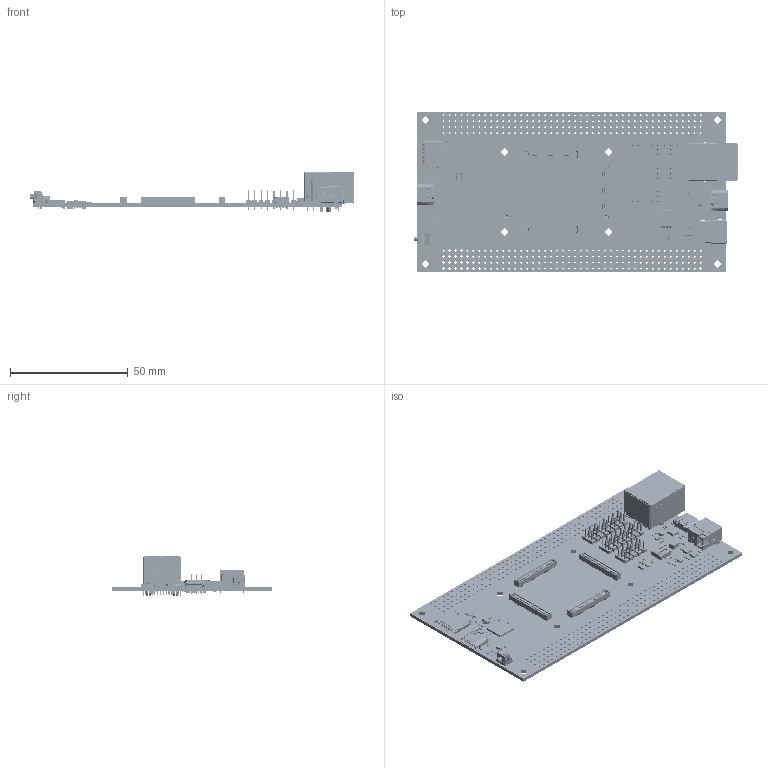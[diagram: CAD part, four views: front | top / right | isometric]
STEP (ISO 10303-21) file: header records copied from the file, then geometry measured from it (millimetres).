
FILE_DESCRIPTION(('KiCad electronic assembly'),'2;1');
FILE_NAME('xlc3233-01_carrier.step','2025-10-01T15:55:16',('Pcbnew'),( 'Kicad'),'Open CASCADE STEP processor 7.6','KiCad to STEP converter' ,'Unknown');
FILE_SCHEMA(('AUTOMOTIVE_DESIGN { 1 0 10303 214 1 1 1 1 }'));
Length unit declared in the file: millimetre
Products named in the file (471): xlc3233-01_carrier 1; SC-88A; R_0402_1005Metric; Solid1; Solid2; Solid3; TENSILITY_54-00127; 54-00127_54-00127; FB_0402_1005Metric; NX3020_SC-88_SOT363; part; C_0402_1005Metric; SAMTEC_TMM-103-03-L-S; TMM-103-03-L-S_body; TMM-103-03-L-S_pins1; TMM-103-03-L-S_pins2; TPSM828303ARDSR; NEXPERIA_PCMF1USB3SZ; HIROSE_DM3D-SF; Card Detection Switch A; Card Detection Switch B; Sheet 1; Sheet 2; Shield Cover; Housing; Pin 1; Pin 2; Pin 3; Pin 4; Pin 5; Pin 6; Pin 7; Pin 8; NXP_NVT4858; HIROSE_DF40HC(3.0)-100DS-0.4V; DF40HC(3.0)-100DS-0.4V; PPAK1212-8_single; PPAK_1212_body; Pin5_8_single; Pin1_4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
Assembly tree (582 placements, depth 4):
  xlc3233-01_carrier 1
    SC-88A
    R_0402_1005Metric  x45
      Solid1
      Solid2
      Solid2
      Solid3
    TENSILITY_54-00127
      54-00127_54-00127
      54-00127_54-00127
      54-00127_54-00127
      54-00127_54-00127
      54-00127_54-00127
      54-00127_54-00127
    FB_0402_1005Metric  x3
    NX3020_SC-88_SOT363  x2
      part
      part
      part
      part
      part
      part
      part
      part
    C_0402_1005Metric  x29
    SAMTEC_TMM-103-03-L-S  x21
      TMM-103-03-L-S_body
      TMM-103-03-L-S_pins1
      TMM-103-03-L-S_pins2
    TPSM828303ARDSR
    NEXPERIA_PCMF1USB3SZ
    HIROSE_DM3D-SF
      Card Detection Switch A
      Card Detection Switch B
      Sheet 1
      Sheet 2
      Shield Cover
      Housing
      Pin 1
      Pin 2
      Pin 3
      Pin 4
      Pin 5
      Pin 6
      Pin 7
      Pin 8
    NXP_NVT4858
    HIROSE_DF40HC(3.0)-100DS-0.4V  x4
      DF40HC(3.0)-100DS-0.4V
      DF40HC(3.0)-100DS-0.4V
      DF40HC(3.0)-100DS-0.4V
      DF40HC(3.0)-100DS-0.4V
      DF40HC(3.0)-100DS-0.4V
      DF40HC(3.0)-100DS-0.4V
      DF40HC(3.0)-100DS-0.4V
      DF40HC(3.0)-100DS-0.4V
      DF40HC(3.0)-100DS-0.4V
      DF40HC(3.0)-100DS-0.4V
      DF40HC(3.0)-100DS-0.4V
      DF40HC(3.0)-100DS-0.4V
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Bounding box: 137.54 x 68.2 x 16.8 mm (x, y, z)
Volume: 16721.8 mm3; surface area: 38299.1 mm2
Topology: 741 solids, 1568 shells, 26019 faces, 71377 edges, 47535 vertices
Faces by surface type: bspline 22151, plane 3058, cylinder 780, sphere 22, torus 6, cone 2
Full cylindrical faces by diameter (mm): 0.088 x1, 0.135 x1, 0.15 x1, 0.152 x1, 0.3 x2, 0.4 x1, 0.762 x4, 0.889 x12, 0.89 x63, 1.02 x352, 1.702 x2, 3.2 x2, 3.4 x8
Entity records: 401742 total; most frequent: CARTESIAN_POINT 182367, ORIENTED_EDGE 62782, EDGE_CURVE 32363, VERTEX_POINT 21171, B_SPLINE_CURVE_WITH_KNOTS 19979, FACE_BOUND 13485, EDGE_LOOP 13485, DIRECTION 12984
